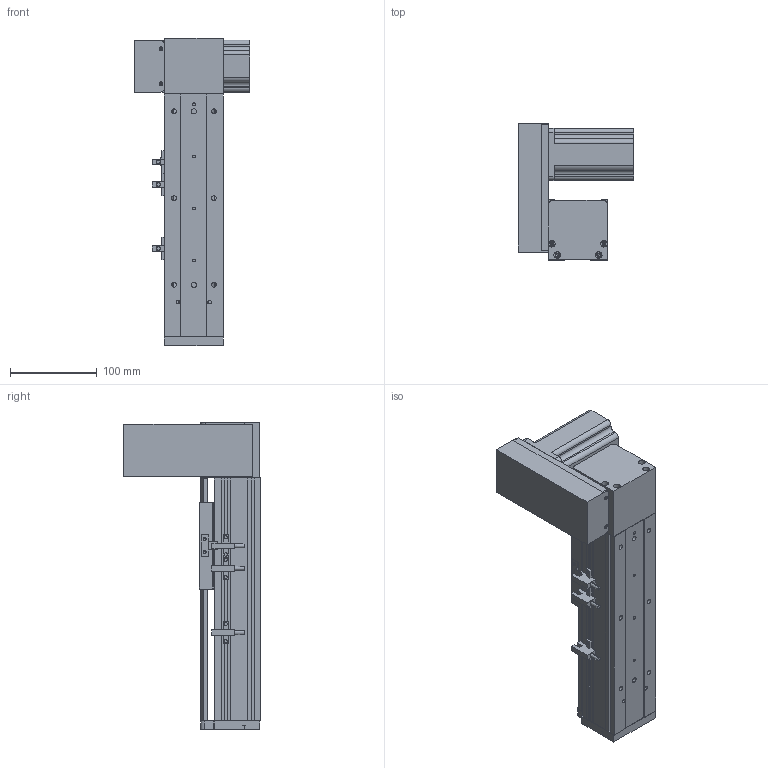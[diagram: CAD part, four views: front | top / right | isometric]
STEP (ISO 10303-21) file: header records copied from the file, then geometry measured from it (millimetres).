
FILE_DESCRIPTION (( 'STEP AP203' ), '1' );
FILE_NAME ('ML68-S100-UR.STEP', '2016-08-05T00:53:28', ( '' ), ( '' ), 'SwSTEP 2.0', 'SolidWorks 2014', '' );
FILE_SCHEMA (( 'CONFIG_CONTROL_DESIGN' ));
Length unit declared in the file: millimetre
Products named in the file (11): ML68-S100-UR; QS68酘衵殏萇儂啣; ML68-BL傷啣; 三协电机MH201N2_預設; 換覜ん; 葩璃 ML68菁釱^ML68-S100-UR; QS68左右折电机板罩子; 60換覜結え; ML68雄赽釱; ML68奻裔^ML68-S100-UR; ML68傷啣
Assembly tree (12 placements, depth 2):
  ML68-S100-UR
    葩璃 ML68菁釱^ML68-S100-UR
    ML68奻裔^ML68-S100-UR
    ML68傷啣
    ML68-BL傷啣
    60換覜結え
    換覜ん  x3
    三协电机MH201N2_預設
    ML68雄赽釱
    QS68酘衵殏萇儂啣
    QS68左右折电机板罩子
Bounding box: 133.5 x 157 x 354 mm (x, y, z)
Volume: 1087678.8 mm3; surface area: 342027.1 mm2
Topology: 12 solids, 12 shells, 803 faces, 2200 edges, 1395 vertices
Faces by surface type: cylinder 360, plane 351, cone 92
Entity records: 25023 total; most frequent: CARTESIAN_POINT 4565, DIRECTION 4140, ORIENTED_EDGE 3908, EDGE_CURVE 1954, AXIS2_PLACEMENT_3D 1486, VERTEX_POINT 1283, LINE 1168, VECTOR 1168
